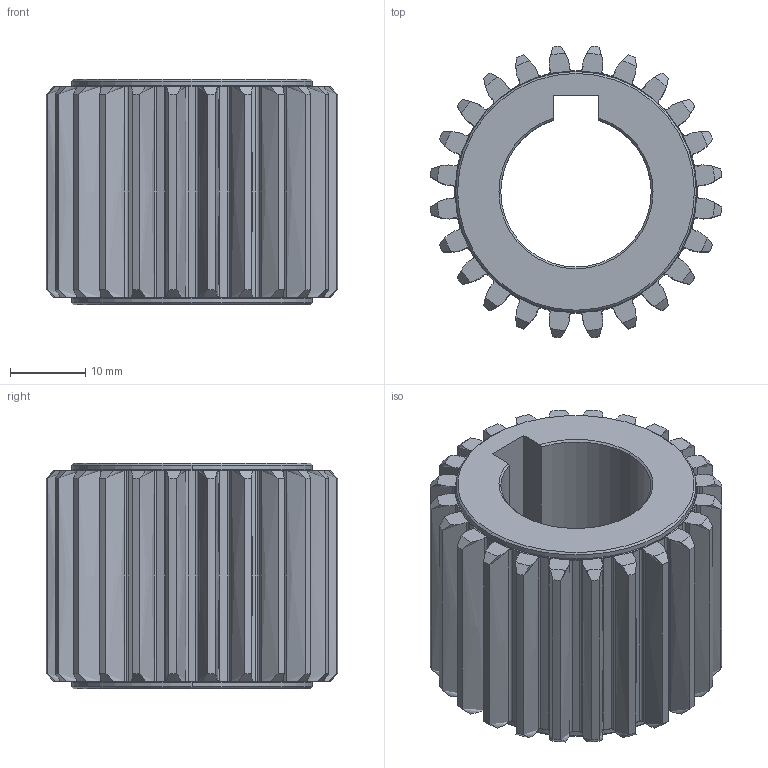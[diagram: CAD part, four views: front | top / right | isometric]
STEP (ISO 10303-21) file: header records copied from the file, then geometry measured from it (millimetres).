
FILE_DESCRIPTION (( 'STEP AP214' ), '1' );
FILE_NAME ('1SG__S015024S.STEP', '2021-08-03T07:23:18', ( '' ), ( '' ), 'SwSTEP 2.0', 'SolidWorks 2021', '' );
FILE_SCHEMA (( 'AUTOMOTIVE_DESIGN' ));
Length unit declared in the file: millimetre
Products named in the file (1): 1SG__S015024S
Bounding box: 38.79 x 38.79 x 30 mm (x, y, z)
Volume: 19609.5 mm3; surface area: 9934.2 mm2
Topology: 1 solids, 1 shells, 256 faces, 788 edges, 536 vertices
Faces by surface type: cylinder 91, bspline 72, cone 58, plane 31, torus 4
Entity records: 14646 total; most frequent: CARTESIAN_POINT 7857, ORIENTED_EDGE 1576, DIRECTION 1254, EDGE_CURVE 788, VERTEX_POINT 536, AXIS2_PLACEMENT_3D 477, LINE 300, VECTOR 300
